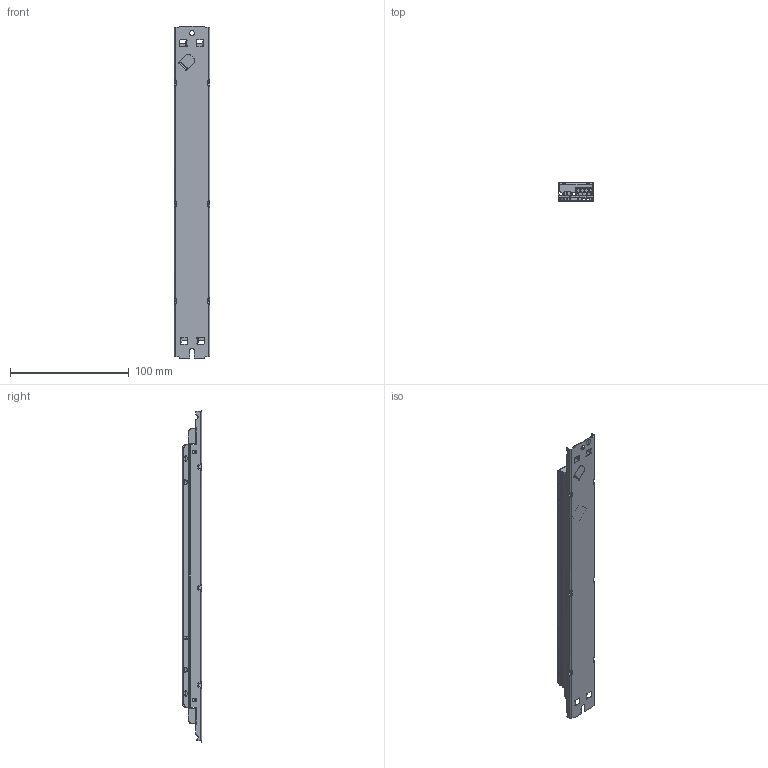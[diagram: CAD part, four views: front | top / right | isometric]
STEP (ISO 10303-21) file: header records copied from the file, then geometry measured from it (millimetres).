
FILE_DESCRIPTION((''),'2;1');
FILE_NAME('15014648Z_DATAMEC_280X30X16-3','2021-08-04T17:12:13',('elon.guo'),(''),'CREO PARAMETRIC BY PTC INC, 2019164','CREO PARAMETRIC BY PTC INC, 2019164','');
FILE_SCHEMA(('CONFIG_CONTROL_DESIGN'));
Products named in the file (1): 15014648Z_DATAMEC_280X30X16-3
Bounding box: 30 x 16.3 x 280 mm (x, y, z)
Volume: 19388.3 mm3; surface area: 65495 mm2
Topology: 4 solids, 33 shells, 1494 faces, 3843 edges, 2372 vertices
Faces by surface type: plane 682, cylinder 528, bspline 236, cone 32, torus 8, sphere 8
Entity records: 55809 total; most frequent: CARTESIAN_POINT 21260, ORIENTED_EDGE 7550, DIRECTION 6569, EDGE_CURVE 3827, VERTEX_POINT 2372, AXIS2_PLACEMENT_3D 2213, VECTOR 2143, LINE 2143
